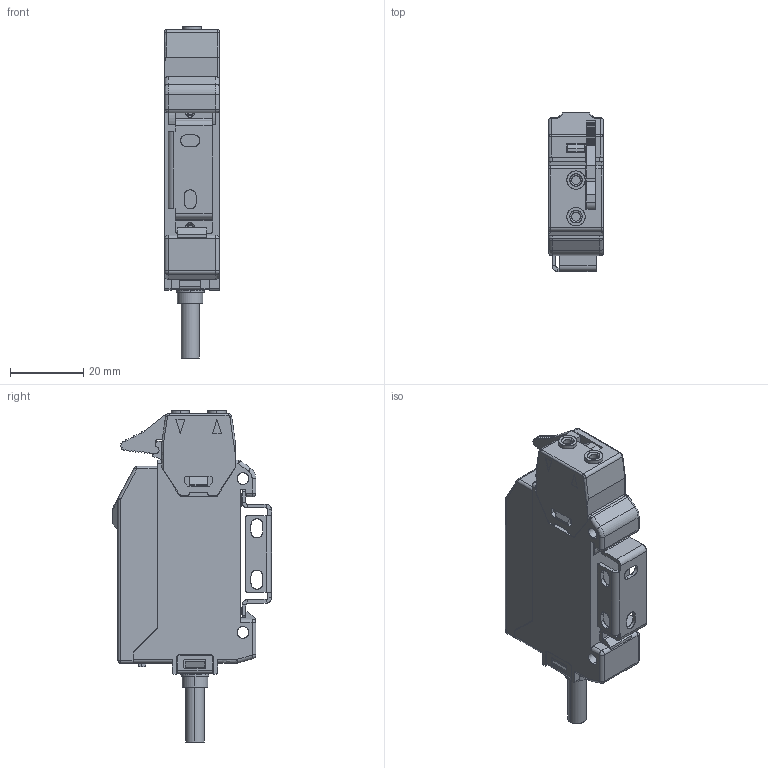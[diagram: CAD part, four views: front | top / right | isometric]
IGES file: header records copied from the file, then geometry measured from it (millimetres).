
Start section: SolidWorks IGES file using analytic representation for surfaces
Bounding box: 15 x 43.4 x 90.6 mm (x, y, z)
Surface area: 15053.1 mm2 (no closed solid volume)
Topology: 0 solids, 0 shells, 765 faces, 6985 edges, 6969 vertices
Faces by surface type: bspline 465, revolution 300
